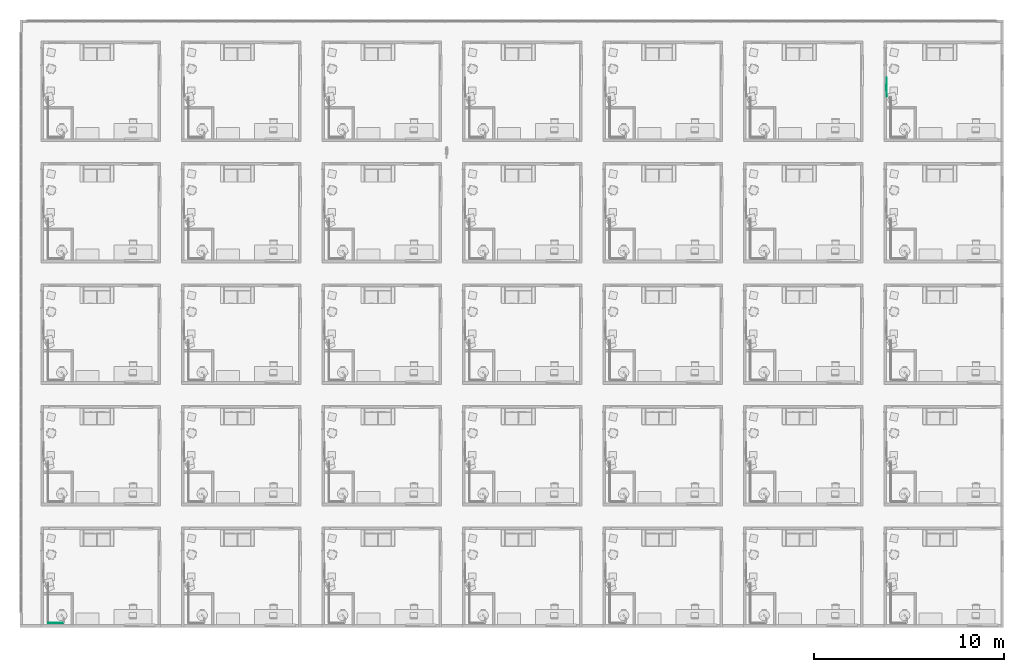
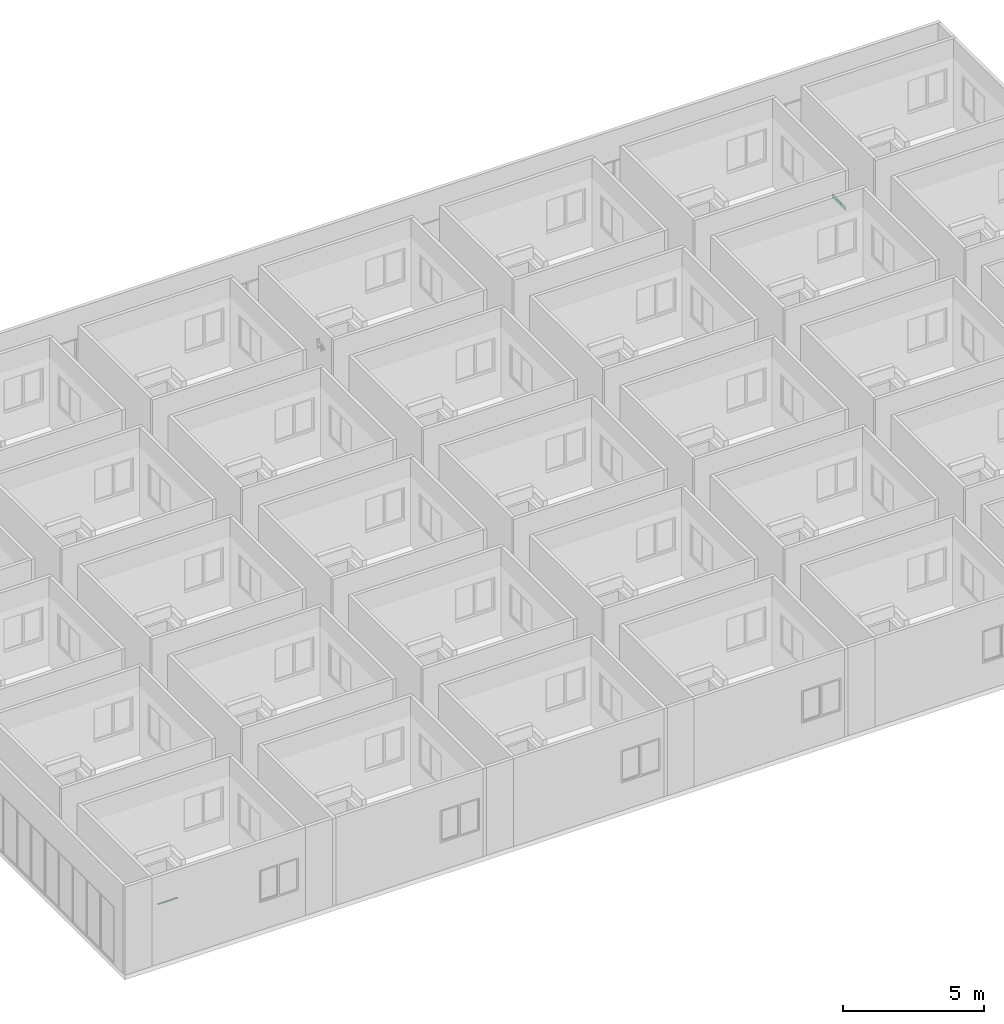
# One storey, part 38 of 69: 1 air terminal, 1 pipe segment.
"""IFC4 building model written with IfcOpenShell, lengths in centimetres."""

from ifc_helpers import new_model, entity, si_unit, converted_unit, derived_unit, direction, frame, origin, place, context, subcontext, project, spatial, arc, indexed_curve, outline, extrude, source, transform, mapped, material, constituent, constituent_set, type_object, type_shapes, element, save


model = new_model("IFC4")

# Units and contexts
model_context = context("Model", 3, precision=0.001, world=origin(), true_north=direction((6.123233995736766e-17, 1.0)))
body_context = subcontext(model_context, "Body", "Model", "MODEL_VIEW")
ifc_project = project(units=[si_unit("LENGTHUNIT", "METRE", prefix="CENTI"), si_unit("AREAUNIT", "SQUARE_METRE"), si_unit("VOLUMEUNIT", "CUBIC_METRE"), derived_unit("THERMALTRANSMITTANCEUNIT", [(si_unit("MASSUNIT", "GRAM", prefix="KILO"), 1), (si_unit("THERMODYNAMICTEMPERATUREUNIT", "KELVIN"), -1), (si_unit("TIMEUNIT", "SECOND"), -3)]), converted_unit("PLANEANGLEUNIT", "DEGREE", entity("IfcPlaneAngleMeasure", 0.017453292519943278), si_unit("PLANEANGLEUNIT", "RADIAN"), dimensions=[0, 0, 0, 0, 0, 0, 0]), derived_unit("MASSDENSITYUNIT", [(si_unit("MASSUNIT", "GRAM", prefix="KILO"), 1), (si_unit("LENGTHUNIT", "METRE"), -3)]), derived_unit("VAPORPERMEABILITYUNIT", [(si_unit("LENGTHUNIT", "METRE"), -1), (si_unit("TIMEUNIT", "SECOND"), 1)]), derived_unit("USERDEFINED", [(si_unit("MASSUNIT", "GRAM", prefix="KILO"), 1), (si_unit("TIMEUNIT", "SECOND"), -3), (si_unit("LENGTHUNIT", "METRE"), 3), (si_unit("ELECTRICCURRENTUNIT", "AMPERE"), -2)]), derived_unit("SPECIFICHEATCAPACITYUNIT", [(si_unit("THERMODYNAMICTEMPERATUREUNIT", "KELVIN"), -1), (si_unit("LENGTHUNIT", "METRE"), 2), (si_unit("TIMEUNIT", "SECOND"), -2)]), derived_unit("THERMALCONDUCTANCEUNIT", [(si_unit("MASSUNIT", "GRAM", prefix="KILO"), 1), (si_unit("THERMODYNAMICTEMPERATUREUNIT", "KELVIN"), -1), (si_unit("TIMEUNIT", "SECOND"), -3), (si_unit("LENGTHUNIT", "METRE"), 1)]), si_unit("PRESSUREUNIT", "PASCAL"), derived_unit("MODULUSOFELASTICITYUNIT", [(si_unit("MASSUNIT", "GRAM", prefix="KILO"), 1), (si_unit("LENGTHUNIT", "METRE"), -1), (si_unit("TIMEUNIT", "SECOND"), -2)]), derived_unit("THERMALEXPANSIONCOEFFICIENTUNIT", [(si_unit("THERMODYNAMICTEMPERATUREUNIT", "KELVIN"), -1)])], contexts=[model_context])

# Site, building, storey, space
site_placement = place(None, origin())
site = spatial("IfcSite", under=ifc_project, at=site_placement, Name="Default", CompositionType="ELEMENT")
building_placement = place(site_placement, origin())
building = spatial("IfcBuilding", under=site, at=building_placement, Name="IDS Escape Game Building", CompositionType="ELEMENT")
storey_placement = place(building_placement, origin())
storey = spatial("IfcBuildingStorey", under=building, at=storey_placement, Name="00_Ground Floor", CompositionType="ELEMENT", Elevation=0.0)
space_placement = place(storey_placement, origin())
space = spatial("IfcSpace", under=storey, at=space_placement, Name="35", CompositionType="ELEMENT", PredefinedType="NOTDEFINED")

# Air terminal
ifc_material_1 = material(Name="TB_LVC_referentievlak_00_gen_BERSnl", Category="BE Default")
ifc_constituent_1 = constituent(ifc_material_1, Name="TB_LVC_referentievlak_00_gen_BERSnl", Category="BE Default", fraction=0.00014157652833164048)
ifc_material_2 = material(Name="ARC_FME.h2_staal_00_gen_BERSnl", Category="h - metaal")
ifc_constituent_2 = constituent(ifc_material_2, Name="ARC_FME.h2_staal_00_gen_BERSnl", Category="h - metaal", fraction=0.9998584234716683)
ifc_constituent_set_1 = constituent_set(constituents=[ifc_constituent_1, ifc_constituent_2])
ifc_constituent_3 = constituent(ifc_material_1, Name="BE Referentievlak", Category="BE Default", fraction=0.00014157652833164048)
ifc_constituent_4 = constituent(ifc_material_2, Name="Terminals", Category="h - metaal", fraction=0.9998584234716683)
ifc_constituent_set_2 = constituent_set(constituents=[ifc_constituent_3, ifc_constituent_4])
air_terminal_type = type_object("IfcAirTerminalType", Name="TB_57_AIR_FB_aanzuigrooster - 1 rechthoekige aansluiting - calculated flow_gen_BERSnl:Air Terminal - Exhaust", PredefinedType="GRILLE", material=ifc_constituent_set_2)
shared_shape = source(origin(), body_context, "Body", "SweptSolid", [
    extrude(outline(indexed_curve([(-0.5, -2.0290176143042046e-15), (6.8507733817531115e-16, -0.5000000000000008), (0.5, 2.0290176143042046e-15), (-5.361679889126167e-16, 0.49999999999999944)], segments=[arc(1, 2, 3), arc(3, 4, 1)], self_intersect=False)), frame((0.0, 0.0, 0.0), z_axis=(1.7453292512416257e-05, 0.0, 1.0), x_axis=(0.0, 1.0, 0.0)), (0.0, 0.0, 1.0), 0.09999999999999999),
    extrude(outline(indexed_curve([(-14.900000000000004, -4.9), (14.900000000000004, -4.9), (14.900000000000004, 4.9), (-14.900000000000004, 4.9), (-14.900000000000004, -4.9)], self_intersect=False)), frame((-4.886921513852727e-05, 0.0, -2.7999999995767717)), (0.0, 0.0, 1.0), 2.7999999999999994),
    extrude(outline(indexed_curve([(-50.0, -10.0), (50.0, -10.0), (50.0, 10.0), (-50.0, 10.0), (-50.0, -10.0)], self_intersect=False)), frame((0.0, 0.0, 0.0), z_axis=(0.0, 0.0, 1.0), x_axis=(-1.0, 0.0, 0.0)), (0.0, 0.0, 1.0), 0.6999999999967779),
])
type_shapes(air_terminal_type, [shared_shape])
air_terminal_placement = place(space_placement, frame((4435.0, 2835.0, 24.0), z_axis=(1.0, 0.0, 0.0), x_axis=(0.0, 1.0, 0.0)))
element("IfcAirTerminal", 1, at=air_terminal_placement, inside=space, type_object=air_terminal_type, material=ifc_constituent_set_1, Name="TB_57_AIR_FB_aanzuigrooster - 1 rechthoekige aansluiting - calculated flow_gen_BERSnl:Air Terminal - Exhaust", ObjectType="TB_57_AIR_FB_aanzuigrooster - 1 rechthoekige aansluiting - calculated flow_gen_BERSnl:Air Terminal - Exhaust", PredefinedType="GRILLE", context=body_context, shape_type="MappedRepresentation", body=[
    mapped(shared_shape, transform((0.0, 0.0, 0.0), scale=1.0)),
])

# Pipe segment
pipe_segment_type = type_object("IfcPipeSegmentType", Name="Pipe Types:Piping Aluminum", PredefinedType="NOTDEFINED")
pipe_segment_placement = place(storey_placement, origin())
element("IfcPipeSegment", 2, at=pipe_segment_placement, inside=storey, type_object=pipe_segment_type, Name="Pipe Types:Piping Aluminum", ObjectType="Pipe Types:Piping Aluminum", PredefinedType="NOTDEFINED", context=body_context, shape_type="SweptSolid", body=[
    extrude(outline(indexed_curve([(2.412999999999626, -2.165734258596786e-13), (1.7062486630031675, 1.7062486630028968), (3.790034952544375e-13, 2.4130000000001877), (-1.7062486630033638, 1.7062486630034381), (-2.4130000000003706, -1.6243006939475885e-13), (-1.706248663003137, -1.7062486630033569), (3.654676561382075e-13, -2.412999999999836), (1.7062486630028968, -1.7062486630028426)], segments=[arc(1, 2, 3), arc(3, 4, 5), arc(5, 6, 7), arc(7, 8, 1)], self_intersect=False)), frame((31.14671687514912, 21.264827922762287, 242.0), z_axis=(1.0, 0.0, 0.0), x_axis=(0.0, 1.0, 0.0)), (0.0, 0.0, 1.0), 79.9032831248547),
])

save(model, "model.ifc")
